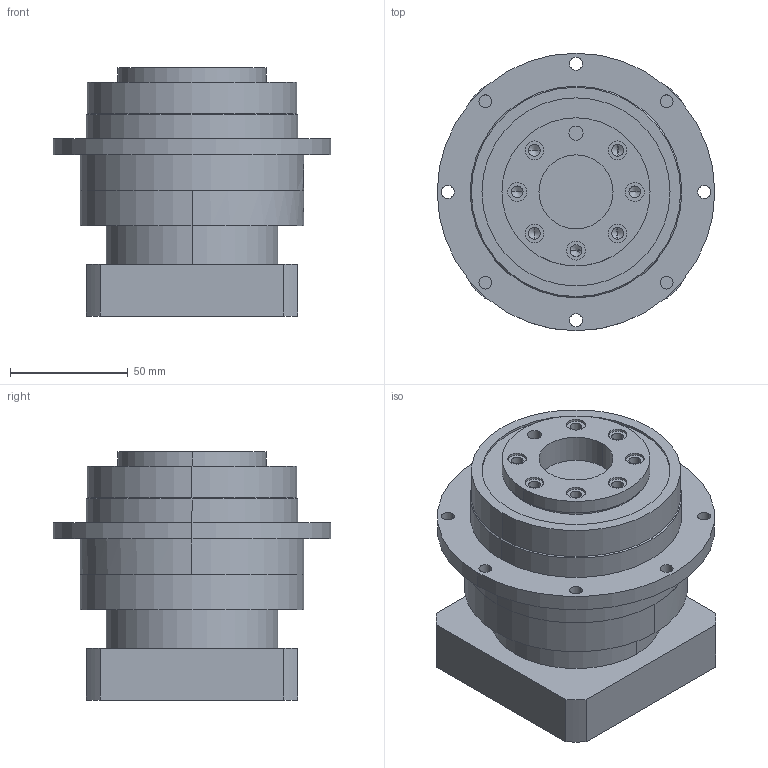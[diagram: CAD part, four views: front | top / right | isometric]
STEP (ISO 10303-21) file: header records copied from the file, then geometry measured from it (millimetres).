
FILE_DESCRIPTION (( 'STEP AP203' ), '1' );
FILE_NAME ('PLX90-L1-19-70-90.STEP', '2022-07-05T08:17:31', ( 'Windows User' ), ( 'P R C' ), 'SwSTEP 2.0', 'SolidWorks 2016', '' );
FILE_SCHEMA (( 'CONFIG_CONTROL_DESIGN' ));
Length unit declared in the file: millimetre
Products named in the file (6): PLX90 内齿圈_一级内齿圈; PLX90 珨撰狟屳啣; 囀鞠褒蹟佪-M6x16; PLX90 窣諉啣-梓袧; 粣創-6006 30x55x13; PLX90-L1-19-70-90
Assembly tree (5 placements, depth 2):
  PLX90-L1-19-70-90
    PLX90 内齿圈_一级内齿圈
    PLX90 珨撰狟屳啣
    囀鞠褒蹟佪-M6x16
    PLX90 窣諉啣-梓袧
    粣創-6006 30x55x13
Bounding box: 118 x 118 x 105.5 mm (x, y, z)
Volume: 617865.2 mm3; surface area: 123921.6 mm2
Topology: 5 solids, 6 shells, 1185 faces, 3227 edges, 2117 vertices
Faces by surface type: plane 592, cylinder 265, bspline 158, sphere 77, torus 51, cone 42
Entity records: 46950 total; most frequent: CARTESIAN_POINT 17534, ORIENTED_EDGE 6312, DIRECTION 5465, EDGE_CURVE 3156, VERTEX_POINT 2095, AXIS2_PLACEMENT_3D 1941, LINE 1583, VECTOR 1583
